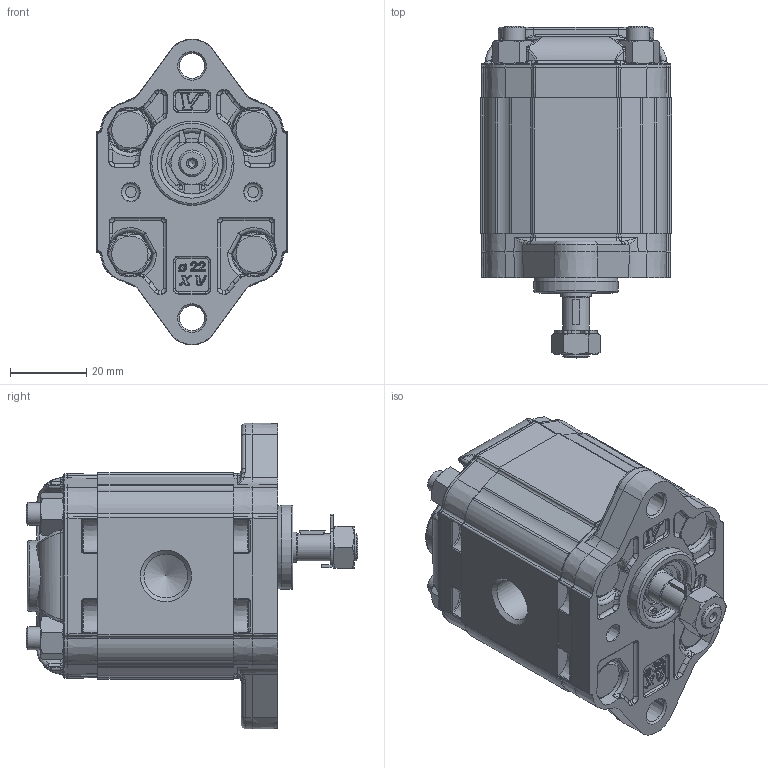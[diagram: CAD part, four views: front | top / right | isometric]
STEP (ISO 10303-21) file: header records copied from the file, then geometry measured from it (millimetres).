
FILE_DESCRIPTION(/* description */ ('Unknown'),/* implementation_level */ '2;1');
FILE_NAME(/* name */ 'X0U0701ABBA',/* time_stamp */ '2026-05-25T17:16:43+02:00',/* author */ ('Unknown'),/* organization */ ('Unknown'),/* preprocessor_version */ 'ST-DEVELOPER v16.7',/* originating_system */ 'Solid Edge',/* authorisation */ 'Unknown');
FILE_SCHEMA (('AUTOMOTIVE_DESIGN {1 0 10303 214 3 1 1}'));
Products named in the file (5): X0U0701ABBA; X0U01; 0A; X0BBH35,5; XU001-A
Assembly tree (4 placements, depth 2):
  X0U0701ABBA
    X0U01
    0A
    X0BBH35,5
    XU001-A
Bounding box: 50 x 86.8 x 79.95 mm (x, y, z)
Volume: 143978.3 mm3; surface area: 40062.5 mm2
Topology: 5 solids, 5 shells, 2541 faces, 6200 edges, 3664 vertices
Faces by surface type: cylinder 768, plane 645, bspline 547, cone 308, torus 195, sphere 78
Full cylindrical faces by diameter (mm): 1.053 x2, 2 x1, 6 x8, 6.01 x4, 6.5 x4, 6.518 x4, 6.545 x2, 7 x2, 7.25 x1, 7.5 x2, 7.92 x1, 8 x2, 9.318 x1, 10 x4, 10.445 x1, 11 x1, 11.445 x2, 13 x1, 14 x1, 16 x1, 16.2 x1, 16.8 x1, 22 x1
Entity records: 156627 total; most frequent: CARTESIAN_POINT 84051, ORIENTED_EDGE 11834, DIRECTION 10537, EDGE_CURVE 5917, AXIS2_PLACEMENT_3D 4294, VERTEX_POINT 3597, FACE_BOUND 2820, EDGE_LOOP 2817
